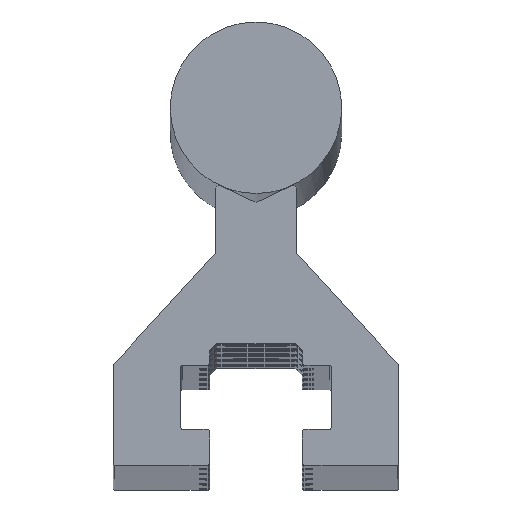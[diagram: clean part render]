
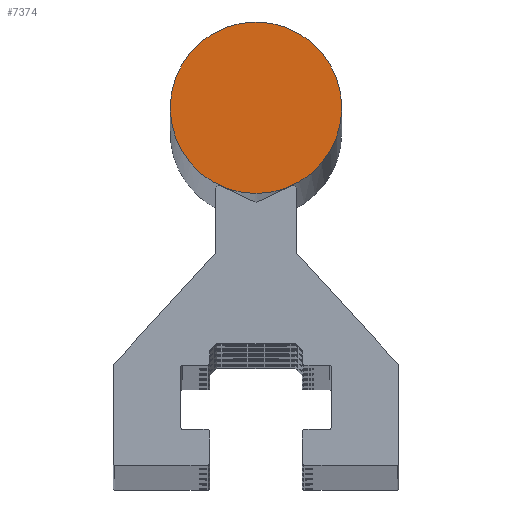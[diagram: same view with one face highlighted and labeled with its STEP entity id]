
A CAD part, top view. The second image highlights one B-rep face of the part: STEP entity #7374.
In plain terms, the highlighted planar face has unit normal (0, 0, 1).
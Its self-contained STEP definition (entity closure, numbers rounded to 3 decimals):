
#425 = AXIS2_PLACEMENT_3D ( 'NONE', #5502, #5352, #5194 ) ;
#2283 = CIRCLE ( 'NONE', #425, 6. ) ;
#2619 = FACE_OUTER_BOUND ( 'NONE', #5818, .T. ) ;
#5194 = DIRECTION ( 'NONE',  ( 1., 0., 0. ) ) ;
#5352 = DIRECTION ( 'NONE',  ( 0., 0., 1. ) ) ;
#5502 = CARTESIAN_POINT ( 'NONE',  ( 0., 25., 1. ) ) ;
#5818 = EDGE_LOOP ( 'NONE', ( #20555 ) ) ;
#6136 = CARTESIAN_POINT ( 'NONE',  ( 6., 25., 1. ) ) ;
#7374 = ADVANCED_FACE ( 'NONE', ( #2619 ), #21524, .T. ) ;
#8219 = AXIS2_PLACEMENT_3D ( 'NONE', #22127, #21324, #21258 ) ;
#13212 = VERTEX_POINT ( 'NONE', #6136 ) ;
#19059 = EDGE_CURVE ( 'NONE', #13212, #13212, #2283, .T. ) ;
#20555 = ORIENTED_EDGE ( 'NONE', *, *, #19059, .T. ) ;
#21258 = DIRECTION ( 'NONE',  ( 1., 0., 0. ) ) ;
#21324 = DIRECTION ( 'NONE',  ( 0., 0., 1. ) ) ;
#21524 = PLANE ( 'NONE',  #8219 ) ;
#22127 = CARTESIAN_POINT ( 'NONE',  ( 0., 25., 1. ) ) ;
